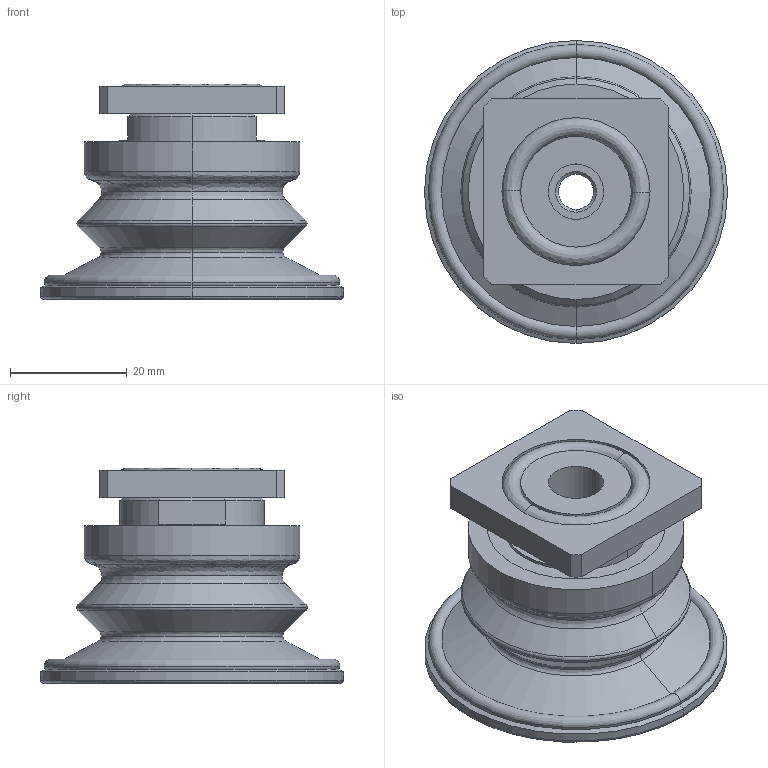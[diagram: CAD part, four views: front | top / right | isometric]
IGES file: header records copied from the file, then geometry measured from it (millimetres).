
Start section: 3D InterOp IGES (v. 2018 1.0.2), Spatial Corp. Copyright (c) 1999-2017.
Global section: file name: schmalz_10_01_06_01055_7duchdz7apru6dfd0xrwpirs5.igs; native system: Spatial Corp.; preprocessor: 3D InterOp ACIS/IGES; author: TraceParts; organization: TraceParts S.A.; date: 20181018.043337; units: millimetre
Bounding box: 52 x 52 x 37.03 mm (x, y, z)
Surface area: 12855.9 mm2 (no closed solid volume)
Topology: 0 solids, 0 shells, 98 faces, 420 edges, 420 vertices
Faces by surface type: revolution 76, extrusion 22
